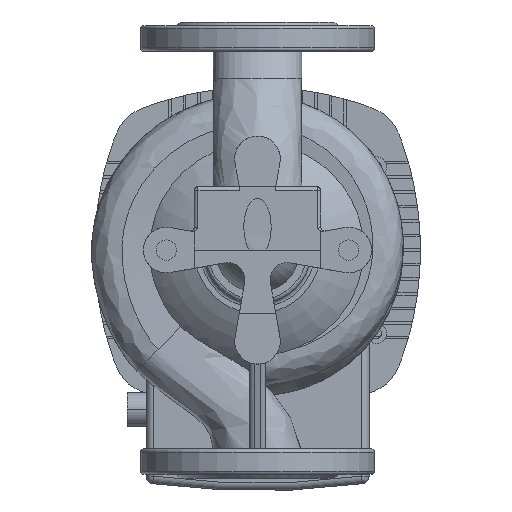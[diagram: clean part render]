
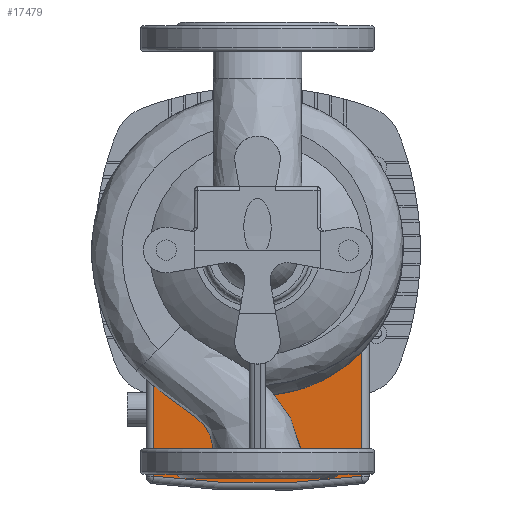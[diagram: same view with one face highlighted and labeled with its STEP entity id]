
A CAD part, front view. The second image highlights one B-rep face of the part: STEP entity #17479.
In plain terms, the highlighted planar face has unit normal (0, -1, 0) as drawn and (0, 0, 1) by its records, which use the part's own axes.
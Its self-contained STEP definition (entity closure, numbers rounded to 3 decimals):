
#584 = FACE_OUTER_BOUND ( 'NONE', #6052, .T. ) ;
#2009 = AXIS2_PLACEMENT_3D ( 'NONE', #13203, #6588, #10950 ) ;
#2260 = DIRECTION ( 'NONE',  ( 1., 0., 0. ) ) ;
#2438 = VECTOR ( 'NONE', #20744, 1000. ) ;
#2590 = AXIS2_PLACEMENT_3D ( 'NONE', #7294, #19958, #26005 ) ;
#3367 = CIRCLE ( 'NONE', #2009, 607. ) ;
#4172 = EDGE_CURVE ( 'NONE', #7814, #10471, #23343, .T. ) ;
#5568 = EDGE_CURVE ( 'NONE', #14403, #7814, #10051, .T. ) ;
#6052 = EDGE_LOOP ( 'NONE', ( #20957, #20624, #17635, #11388 ) ) ;
#6347 = CARTESIAN_POINT ( 'NONE',  ( 82., 128.5, -140.5 ) ) ;
#6588 = DIRECTION ( 'NONE',  ( 0., 0., 1. ) ) ;
#7294 = CARTESIAN_POINT ( 'NONE',  ( 68., 128.5, -140.5 ) ) ;
#7814 = VERTEX_POINT ( 'NONE', #14116 ) ;
#8445 = DIRECTION ( 'NONE',  ( 0., 1., 0. ) ) ;
#10051 = LINE ( 'NONE', #10184, #2438 ) ;
#10184 = CARTESIAN_POINT ( 'NONE',  ( -82., 128.5, -140.5 ) ) ;
#10471 = VERTEX_POINT ( 'NONE', #15311 ) ;
#10950 = DIRECTION ( 'NONE',  ( 0., -1., 0. ) ) ;
#11264 = VECTOR ( 'NONE', #8445, 1000. ) ;
#11381 = CARTESIAN_POINT ( 'NONE',  ( 0., 0., -140.5 ) ) ;
#11388 = ORIENTED_EDGE ( 'NONE', *, *, #5568, .T. ) ;
#11615 = EDGE_CURVE ( 'NONE', #10471, #24253, #15059, .T. ) ;
#13203 = CARTESIAN_POINT ( 'NONE',  ( 0., -423., -140.5 ) ) ;
#14116 = CARTESIAN_POINT ( 'NONE',  ( -82., 72.569, -140.5 ) ) ;
#14403 = VERTEX_POINT ( 'NONE', #24985 ) ;
#15059 = LINE ( 'NONE', #6347, #11264 ) ;
#15311 = CARTESIAN_POINT ( 'NONE',  ( 82., 72.569, -140.5 ) ) ;
#15704 = EDGE_CURVE ( 'NONE', #24253, #14403, #3367, .T. ) ;
#16965 = CARTESIAN_POINT ( 'NONE',  ( 82., 178.436, -140.5 ) ) ;
#17435 = PLANE ( 'NONE',  #2590 ) ;
#17479 = ADVANCED_FACE ( 'NONE', ( #584 ), #17435, .T. ) ;
#17635 = ORIENTED_EDGE ( 'NONE', *, *, #15704, .T. ) ;
#19958 = DIRECTION ( 'NONE',  ( 0., 0., 1. ) ) ;
#20624 = ORIENTED_EDGE ( 'NONE', *, *, #11615, .T. ) ;
#20744 = DIRECTION ( 'NONE',  ( 0., -1., 0. ) ) ;
#20957 = ORIENTED_EDGE ( 'NONE', *, *, #4172, .T. ) ;
#23343 = CIRCLE ( 'NONE', #26955, 109.5 ) ;
#24253 = VERTEX_POINT ( 'NONE', #16965 ) ;
#24985 = CARTESIAN_POINT ( 'NONE',  ( -82., 178.436, -140.5 ) ) ;
#26005 = DIRECTION ( 'NONE',  ( 0., -1., 0. ) ) ;
#26284 = DIRECTION ( 'NONE',  ( 0., 0., -1. ) ) ;
#26955 = AXIS2_PLACEMENT_3D ( 'NONE', #11381, #26284, #2260 ) ;
